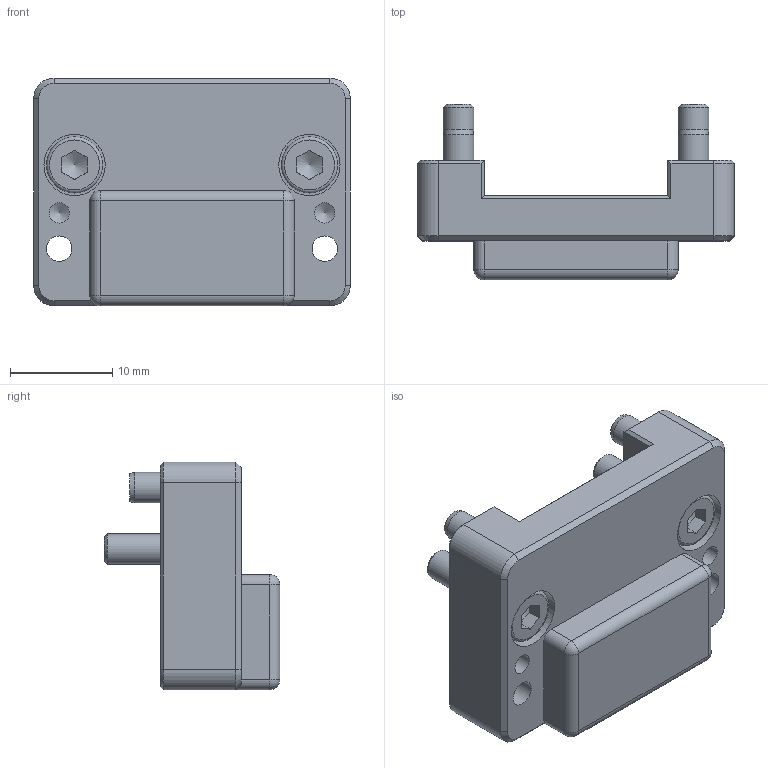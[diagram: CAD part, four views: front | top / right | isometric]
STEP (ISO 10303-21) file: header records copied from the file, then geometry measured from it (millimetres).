
FILE_DESCRIPTION(/* description */ (''),/* implementation_level */ '2;1');
FILE_NAME(/* name */ 'ZG-AP-SEK100-SHS080-O.stp',/* time_stamp */ '2024-11-13T16:06:41+01:00',/* author */ ('ysplieth'),/* organization */ (''),/* preprocessor_version */ 'ST-DEVELOPER v20',/* originating_system */ 'Autodesk Inventor 2024',/* authorisation */ '');
FILE_SCHEMA (('AUTOMOTIVE_DESIGN { 1 0 10303 214 3 1 1 }'));
Length unit declared in the file: millimetre
Products named in the file (1): Bauteil12
Bounding box: 31 x 17.2 x 22.3 mm (x, y, z)
Volume: 4780.3 mm3; surface area: 3169.8 mm2
Topology: 1 solids, 3 shells, 111 faces, 249 edges, 152 vertices
Faces by surface type: plane 55, cylinder 28, cone 20, torus 4, sphere 4
Full cylindrical faces by diameter (mm): 2 x2, 2.5 x2, 3 x6, 3.4 x2, 5.5 x2, 6 x2
Entity records: 3196 total; most frequent: DIRECTION 541, CARTESIAN_POINT 535, ORIENTED_EDGE 486, EDGE_CURVE 243, AXIS2_PLACEMENT_3D 200, VERTEX_POINT 152, LINE 141, VECTOR 141
